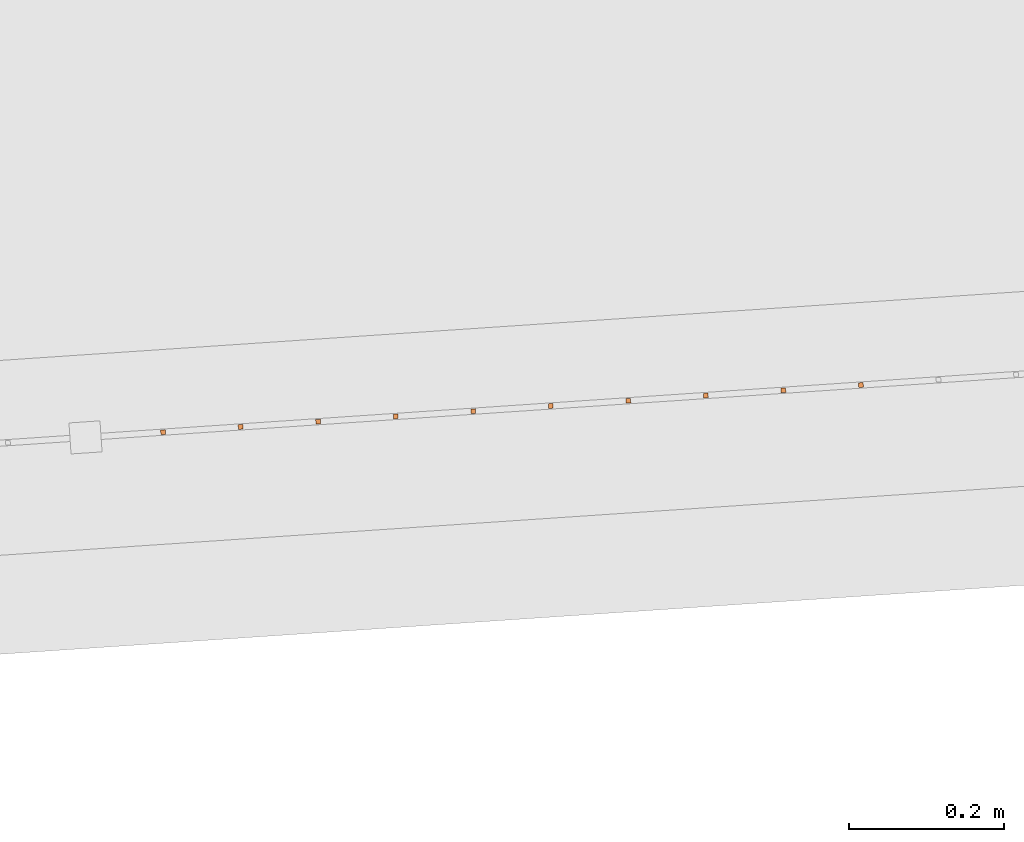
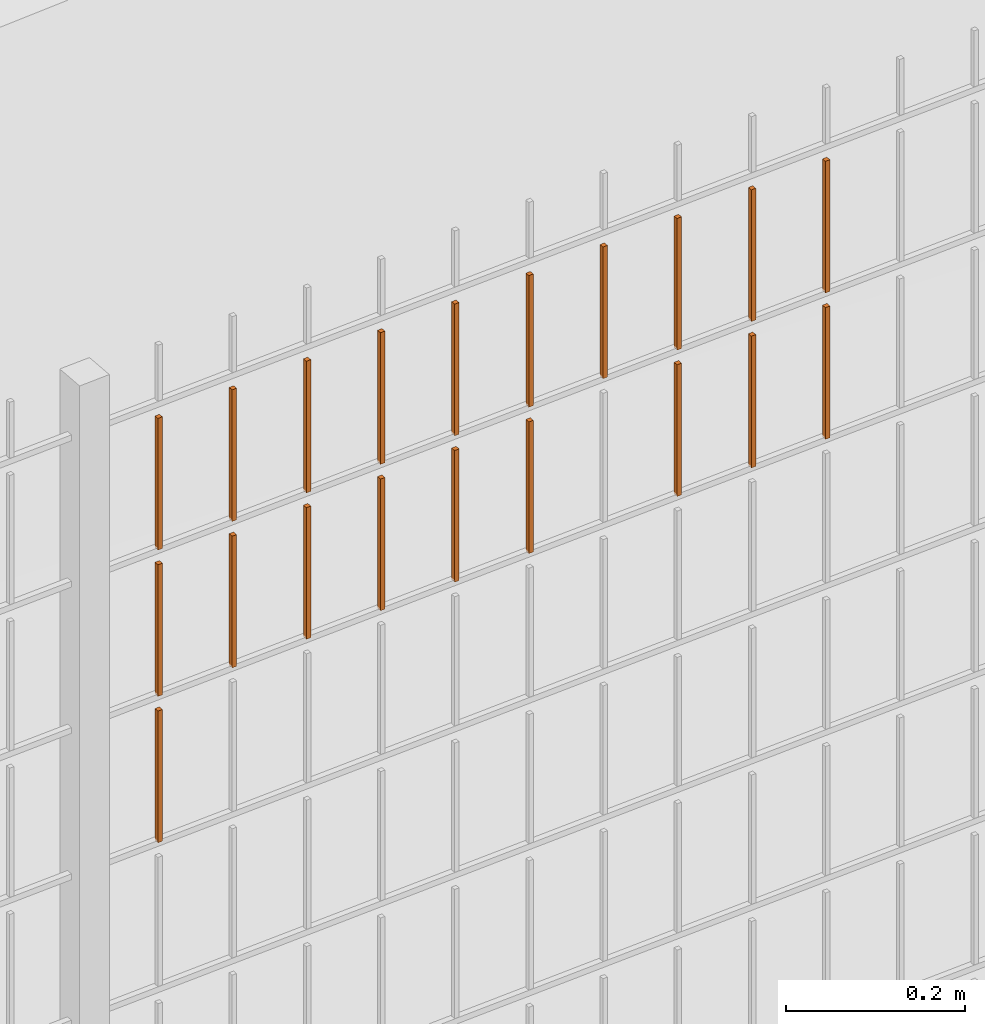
# One storey, part 324 of 1809: 20 proxies, 1 element without a shape of its own.
"""IFC2X3 building model written with IfcOpenShell, lengths in millimetres."""

from ifc_helpers import new_model, entity, si_unit, converted_unit, derived_unit, money_unit, direction, frame, origin_with_axes, place, context, subcontext, project, spatial, faceted_brep, source, transform, mapped, material, type_object, element, aggregate, save


model = new_model("IFC2X3")

# Units and contexts
model_context = context("Model", 3, precision=0.01, world=origin_with_axes(), true_north=direction((0.0, 1.0)))
body_context = subcontext(model_context, "Body", "Model", "MODEL_VIEW")
ifc_project = project(units=[si_unit("LENGTHUNIT", "METRE", prefix="MILLI"), si_unit("AREAUNIT", "SQUARE_METRE"), si_unit("VOLUMEUNIT", "CUBIC_METRE"), converted_unit("PLANEANGLEUNIT", "DEGREE", entity("IfcPlaneAngleMeasure", 0.0174532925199), si_unit("PLANEANGLEUNIT", "RADIAN"), dimensions=[0, 0, 0, 0, 0, 0, 0]), si_unit("SOLIDANGLEUNIT", "STERADIAN"), money_unit("EUR"), converted_unit("TIMEUNIT", "Year", entity("IfcTimeMeasure", 31556926.0), si_unit("TIMEUNIT", "SECOND"), dimensions=[0, 0, 1, 0, 0, 0, 0]), si_unit("MASSUNIT", "GRAM", prefix="KILO"), si_unit("THERMODYNAMICTEMPERATUREUNIT", "DEGREE_CELSIUS"), si_unit("LUMINOUSINTENSITYUNIT", "LUMEN"), si_unit("ENERGYUNIT", "JOULE", prefix="MEGA"), derived_unit("THERMALCONDUCTANCEUNIT", [(si_unit("POWERUNIT", "WATT"), 1), (si_unit("LENGTHUNIT", "METRE"), -1), (si_unit("THERMODYNAMICTEMPERATUREUNIT", "KELVIN"), -1)]), derived_unit("SPECIFICHEATCAPACITYUNIT", [(si_unit("ENERGYUNIT", "JOULE"), 1), (si_unit("MASSUNIT", "GRAM", prefix="KILO"), -1), (si_unit("THERMODYNAMICTEMPERATUREUNIT", "KELVIN"), -1)]), derived_unit("MASSDENSITYUNIT", [(si_unit("MASSUNIT", "GRAM", prefix="KILO"), 1), (si_unit("VOLUMEUNIT", "CUBIC_METRE"), -1)])], contexts=[model_context])

# Site, building, storey
site_placement = place(None, origin_with_axes())
site = spatial("IfcSite", under=ifc_project, at=site_placement, Name="Politse- ja Piirivalveameti ning Päästeameti ühishoone", CompositionType="ELEMENT")
building_placement = place(site_placement, origin_with_axes())
building = spatial("IfcBuilding", under=site, at=building_placement, Name="Politse- ja Piirivalveameti ning Päästeameti ühishoone", CompositionType="ELEMENT")
storey_placement = place(building_placement, origin_with_axes())
storey = spatial("IfcBuildingStorey", under=building, at=storey_placement, Name="Esimene korrus", CompositionType="ELEMENT", Elevation=0.0)

# Proxies
building_element_proxy_type_1 = type_object("IfcBuildingElementProxyType", Name="Railing Type", PredefinedType="NOTDEFINED")
proxy_1_placement = place(storey_placement, frame((89252.001212, -29183.4766571, 203.661247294), z_axis=(0.0, 0.0, 1.0), x_axis=(1.0, 0.0, 0.0)))
proxy_1 = element("IfcBuildingElementProxy", 1, at=proxy_1_placement, inside=storey, type_object=building_element_proxy_type_1, Name="PIIRDEAED")
ifc_material = material(Name="ET-03_Raud")
building_element_proxy_type_2 = type_object("IfcBuildingElementProxyType", Name="IfcBuildingElementProxy", PredefinedType="NOTDEFINED")
shared_shape_1 = source(origin_with_axes(), body_context, "Body", "Brep", [
    faceted_brep([(3.0, 3.0, -0.000752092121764), (-3.0, 3.0, -0.000752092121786), (-3.0, 3.0, 179.99926046), (3.0, 3.0, 179.99926046), (3.0, -3.0, 0.000752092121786), (-3.0, -3.0, 0.000752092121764), (-3.0, -3.0, 180.000764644), (3.0, -3.0, 180.000764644)], [[[0, 1, 2, 3]], [[0, 4, 5, 1]], [[1, 5, 6, 2]], [[3, 2, 6, 7]], [[4, 0, 3, 7]], [[5, 4, 7, 6]]]),
])
proxy_2_placement = place(proxy_1_placement, frame((-37142.0542199, -19806.5803551, 1417.9017526), z_axis=(0.0, 0.0, 1.0), x_axis=(1.0, 0.0, 0.0)))
proxy_2 = element("IfcBuildingElementProxy", 2, at=proxy_2_placement, type_object=building_element_proxy_type_2, material=ifc_material, Name="BALUSTER - 001", context=body_context, shape_type="MappedRepresentation", body=[
    mapped(shared_shape_1, transform((0.0, 0.0, 0.0), x_axis=(-0.0673926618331, 0.997726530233, 0.0), y_axis=(-0.997726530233, -0.0673926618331, 0.0), z_axis=(0.0, 0.0, 1.0))),
])
shared_shape_2 = source(origin_with_axes(), body_context, "Body", "Brep", [
    faceted_brep([(3.0, 3.0, -0.000752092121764), (-3.0, 3.0, -0.000752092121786), (-3.0, 3.0, 179.99926046), (3.0, 3.0, 179.99926046), (3.0, -3.0, 0.000752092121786), (-3.0, -3.0, 0.000752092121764), (-3.0, -3.0, 180.000764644), (3.0, -3.0, 180.000764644)], [[[0, 1, 2, 3]], [[0, 4, 5, 1]], [[1, 5, 6, 2]], [[3, 2, 6, 7]], [[4, 0, 3, 7]], [[5, 4, 7, 6]]]),
])
proxy_3_placement = place(proxy_1_placement, frame((-37142.0542199, -19806.5803551, 1817.9017526), z_axis=(0.0, 0.0, 1.0), x_axis=(1.0, 0.0, 0.0)))
proxy_3 = element("IfcBuildingElementProxy", 3, at=proxy_3_placement, type_object=building_element_proxy_type_2, material=ifc_material, Name="BALUSTER - 001", context=body_context, shape_type="MappedRepresentation", body=[
    mapped(shared_shape_2, transform((0.0, 0.0, 0.0), x_axis=(-0.0673926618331, 0.997726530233, 0.0), y_axis=(-0.997726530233, -0.0673926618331, 0.0), z_axis=(0.0, 0.0, 1.0))),
])
shared_shape_3 = source(origin_with_axes(), body_context, "Body", "Brep", [
    faceted_brep([(3.0, 3.0, -0.000752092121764), (-3.0, 3.0, -0.000752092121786), (-3.0, 3.0, 179.99926046), (3.0, 3.0, 179.99926046), (3.0, -3.0, 0.000752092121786), (-3.0, -3.0, 0.000752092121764), (-3.0, -3.0, 180.000764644), (3.0, -3.0, 180.000764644)], [[[0, 1, 2, 3]], [[0, 4, 5, 1]], [[1, 5, 6, 2]], [[3, 2, 6, 7]], [[4, 0, 3, 7]], [[5, 4, 7, 6]]]),
])
proxy_4_placement = place(proxy_1_placement, frame((-37142.0542199, -19806.5803551, 1617.9017526), z_axis=(0.0, 0.0, 1.0), x_axis=(1.0, 0.0, 0.0)))
proxy_4 = element("IfcBuildingElementProxy", 4, at=proxy_4_placement, type_object=building_element_proxy_type_2, material=ifc_material, Name="BALUSTER - 001", context=body_context, shape_type="MappedRepresentation", body=[
    mapped(shared_shape_3, transform((0.0, 0.0, 0.0), x_axis=(-0.0673926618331, 0.997726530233, 0.0), y_axis=(-0.997726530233, -0.0673926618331, 0.0), z_axis=(0.0, 0.0, 1.0))),
])
proxy_5_placement = place(proxy_1_placement, frame((-37042.2815668, -19799.8410889, 1817.92682233), z_axis=(0.0, 0.0, 1.0), x_axis=(1.0, 0.0, 0.0)))
proxy_5 = element("IfcBuildingElementProxy", 5, at=proxy_5_placement, type_object=building_element_proxy_type_2, material=ifc_material, Name="BALUSTER - 001", context=body_context, shape_type="MappedRepresentation", body=[
    mapped(shared_shape_3, transform((0.0, 0.0, 0.0), x_axis=(-0.0673926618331, 0.997726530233, 0.0), y_axis=(-0.997726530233, -0.0673926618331, 0.0), z_axis=(0.0, 0.0, 1.0))),
])
shared_shape_4 = source(origin_with_axes(), body_context, "Body", "Brep", [
    faceted_brep([(3.0, 3.0, -0.000752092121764), (-3.0, 3.0, -0.000752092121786), (-3.0, 3.0, 179.99926046), (3.0, 3.0, 179.99926046), (3.0, -3.0, 0.000752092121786), (-3.0, -3.0, 0.000752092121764), (-3.0, -3.0, 180.000764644), (3.0, -3.0, 180.000764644)], [[[0, 1, 2, 3]], [[0, 4, 5, 1]], [[1, 5, 6, 2]], [[3, 2, 6, 7]], [[4, 0, 3, 7]], [[5, 4, 7, 6]]]),
])
proxy_6_placement = place(proxy_1_placement, frame((-37042.2815668, -19799.8410889, 1617.92682233), z_axis=(0.0, 0.0, 1.0), x_axis=(1.0, 0.0, 0.0)))
proxy_6 = element("IfcBuildingElementProxy", 6, at=proxy_6_placement, type_object=building_element_proxy_type_2, material=ifc_material, Name="BALUSTER - 001", context=body_context, shape_type="MappedRepresentation", body=[
    mapped(shared_shape_4, transform((0.0, 0.0, 0.0), x_axis=(-0.0673926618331, 0.997726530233, 0.0), y_axis=(-0.997726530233, -0.0673926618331, 0.0), z_axis=(0.0, 0.0, 1.0))),
])
shared_shape_5 = source(origin_with_axes(), body_context, "Body", "Brep", [
    faceted_brep([(3.0, 3.0, -0.000752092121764), (-3.0, 3.0, -0.000752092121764), (-3.0, 3.0, 179.99926046), (3.0, 3.0, 179.99926046), (3.0, -3.0, 0.000752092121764), (-3.0, -3.0, 0.000752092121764), (-3.0, -3.0, 180.000764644), (3.0, -3.0, 180.000764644)], [[[0, 1, 2, 3]], [[0, 4, 5, 1]], [[1, 5, 6, 2]], [[3, 2, 6, 7]], [[4, 0, 3, 7]], [[5, 4, 7, 6]]]),
])
proxy_7_placement = place(proxy_1_placement, frame((-36842.7362608, -19786.3625566, 1817.97696181), z_axis=(0.0, 0.0, 1.0), x_axis=(1.0, 0.0, 0.0)))
proxy_7 = element("IfcBuildingElementProxy", 7, at=proxy_7_placement, type_object=building_element_proxy_type_2, material=ifc_material, Name="BALUSTER - 001", context=body_context, shape_type="MappedRepresentation", body=[
    mapped(shared_shape_5, transform((0.0, 0.0, 0.0), x_axis=(-0.0673926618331, 0.997726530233, 0.0), y_axis=(-0.997726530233, -0.0673926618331, 0.0), z_axis=(0.0, 0.0, 1.0))),
])
shared_shape_6 = source(origin_with_axes(), body_context, "Body", "Brep", [
    faceted_brep([(3.0, 3.0, -0.000752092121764), (-3.0, 3.0, -0.000752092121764), (-3.0, 3.0, 179.99926046), (3.0, 3.0, 179.99926046), (3.0, -3.0, 0.000752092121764), (-3.0, -3.0, 0.000752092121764), (-3.0, -3.0, 180.000764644), (3.0, -3.0, 180.000764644)], [[[0, 1, 2, 3]], [[0, 4, 5, 1]], [[1, 5, 6, 2]], [[3, 2, 6, 7]], [[4, 0, 3, 7]], [[5, 4, 7, 6]]]),
])
proxy_8_placement = place(proxy_1_placement, frame((-36742.9636078, -19779.6232904, 1618.00203155), z_axis=(0.0, 0.0, 1.0), x_axis=(1.0, 0.0, 0.0)))
proxy_8 = element("IfcBuildingElementProxy", 8, at=proxy_8_placement, type_object=building_element_proxy_type_2, material=ifc_material, Name="BALUSTER - 001", context=body_context, shape_type="MappedRepresentation", body=[
    mapped(shared_shape_6, transform((0.0, 0.0, 0.0), x_axis=(-0.0673926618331, 0.997726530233, 0.0), y_axis=(-0.997726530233, -0.0673926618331, 0.0), z_axis=(0.0, 0.0, 1.0))),
])
shared_shape_7 = source(origin_with_axes(), body_context, "Body", "Brep", [
    faceted_brep([(3.0, 3.0, -0.000752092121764), (-3.0, 3.0, -0.000752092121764), (-3.0, 3.0, 179.99926046), (3.0, 3.0, 179.99926046), (3.0, -3.0, 0.000752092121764), (-3.0, -3.0, 0.000752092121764), (-3.0, -3.0, 180.000764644), (3.0, -3.0, 180.000764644)], [[[0, 1, 2, 3]], [[0, 4, 5, 1]], [[1, 5, 6, 2]], [[3, 2, 6, 7]], [[4, 0, 3, 7]], [[5, 4, 7, 6]]]),
])
proxy_9_placement = place(proxy_1_placement, frame((-36842.7362608, -19786.3625566, 1617.97696181), z_axis=(0.0, 0.0, 1.0), x_axis=(1.0, 0.0, 0.0)))
proxy_9 = element("IfcBuildingElementProxy", 9, at=proxy_9_placement, type_object=building_element_proxy_type_2, material=ifc_material, Name="BALUSTER - 001", context=body_context, shape_type="MappedRepresentation", body=[
    mapped(shared_shape_7, transform((0.0, 0.0, 0.0), x_axis=(-0.0673926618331, 0.997726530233, 0.0), y_axis=(-0.997726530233, -0.0673926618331, 0.0), z_axis=(0.0, 0.0, 1.0))),
])
proxy_10_placement = place(proxy_1_placement, frame((-36742.9636078, -19779.6232904, 1818.00203155), z_axis=(0.0, 0.0, 1.0), x_axis=(1.0, 0.0, 0.0)))
proxy_10 = element("IfcBuildingElementProxy", 10, at=proxy_10_placement, type_object=building_element_proxy_type_2, material=ifc_material, Name="BALUSTER - 001", context=body_context, shape_type="MappedRepresentation", body=[
    mapped(shared_shape_7, transform((0.0, 0.0, 0.0), x_axis=(-0.0673926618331, 0.997726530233, 0.0), y_axis=(-0.997726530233, -0.0673926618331, 0.0), z_axis=(0.0, 0.0, 1.0))),
])
shared_shape_8 = source(origin_with_axes(), body_context, "Body", "Brep", [
    faceted_brep([(3.0, 3.0, -0.000752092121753), (-3.0, 3.0, -0.000752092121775), (-3.0, 3.0, 179.99926046), (3.0, 3.0, 179.99926046), (3.0, -3.0, 0.000752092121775), (-3.0, -3.0, 0.000752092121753), (-3.0, -3.0, 180.000764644), (3.0, -3.0, 180.000764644)], [[[0, 1, 2, 3]], [[0, 4, 5, 1]], [[1, 5, 6, 2]], [[3, 2, 6, 7]], [[4, 0, 3, 7]], [[5, 4, 7, 6]]]),
])
proxy_11_placement = place(proxy_1_placement, frame((-36643.1909547, -19772.8840242, 1818.02710128), z_axis=(0.0, 0.0, 1.0), x_axis=(1.0, 0.0, 0.0)))
proxy_11 = element("IfcBuildingElementProxy", 11, at=proxy_11_placement, type_object=building_element_proxy_type_2, material=ifc_material, Name="BALUSTER - 001", context=body_context, shape_type="MappedRepresentation", body=[
    mapped(shared_shape_8, transform((0.0, 0.0, 0.0), x_axis=(-0.0673926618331, 0.997726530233, 0.0), y_axis=(-0.997726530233, -0.0673926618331, 0.0), z_axis=(0.0, 0.0, 1.0))),
])
shared_shape_9 = source(origin_with_axes(), body_context, "Body", "Brep", [
    faceted_brep([(3.0, 3.0, -0.000752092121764), (-3.0, 3.0, -0.000752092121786), (-3.0, 3.0, 179.99926046), (3.0, 3.0, 179.99926046), (3.0, -3.0, 0.000752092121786), (-3.0, -3.0, 0.000752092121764), (-3.0, -3.0, 180.000764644), (3.0, -3.0, 180.000764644)], [[[0, 1, 2, 3]], [[0, 4, 5, 1]], [[1, 5, 6, 2]], [[3, 2, 6, 7]], [[4, 0, 3, 7]], [[5, 4, 7, 6]]]),
])
proxy_12_placement = place(proxy_1_placement, frame((-36443.6456487, -19759.4054918, 1818.07724076), z_axis=(0.0, 0.0, 1.0), x_axis=(1.0, 0.0, 0.0)))
proxy_12 = element("IfcBuildingElementProxy", 12, at=proxy_12_placement, type_object=building_element_proxy_type_2, material=ifc_material, Name="BALUSTER - 001", context=body_context, shape_type="MappedRepresentation", body=[
    mapped(shared_shape_9, transform((0.0, 0.0, 0.0), x_axis=(-0.0673926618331, 0.997726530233, 0.0), y_axis=(-0.997726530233, -0.0673926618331, 0.0), z_axis=(0.0, 0.0, 1.0))),
])
shared_shape_10 = source(origin_with_axes(), body_context, "Body", "Brep", [
    faceted_brep([(3.0, 3.0, -0.000752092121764), (-3.0, 3.0, -0.000752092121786), (-3.0, 3.0, 179.99926046), (3.0, 3.0, 179.99926046), (3.0, -3.0, 0.000752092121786), (-3.0, -3.0, 0.000752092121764), (-3.0, -3.0, 180.000764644), (3.0, -3.0, 180.000764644)], [[[0, 1, 2, 3]], [[0, 4, 5, 1]], [[1, 5, 6, 2]], [[3, 2, 6, 7]], [[4, 0, 3, 7]], [[5, 4, 7, 6]]]),
])
proxy_13_placement = place(proxy_1_placement, frame((-36443.6456487, -19759.4054918, 1618.07724076), z_axis=(0.0, 0.0, 1.0), x_axis=(1.0, 0.0, 0.0)))
proxy_13 = element("IfcBuildingElementProxy", 13, at=proxy_13_placement, type_object=building_element_proxy_type_2, material=ifc_material, Name="BALUSTER - 001", context=body_context, shape_type="MappedRepresentation", body=[
    mapped(shared_shape_10, transform((0.0, 0.0, 0.0), x_axis=(-0.0673926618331, 0.997726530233, 0.0), y_axis=(-0.997726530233, -0.0673926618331, 0.0), z_axis=(0.0, 0.0, 1.0))),
])
shared_shape_11 = source(origin_with_axes(), body_context, "Body", "Brep", [
    faceted_brep([(3.0, 3.0, -0.000752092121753), (-3.0, 3.0, -0.000752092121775), (-3.0, 3.0, 179.99926046), (3.0, 3.0, 179.99926046), (3.0, -3.0, 0.000752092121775), (-3.0, -3.0, 0.000752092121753), (-3.0, -3.0, 180.000764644), (3.0, -3.0, 180.000764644)], [[[0, 1, 2, 3]], [[0, 4, 5, 1]], [[1, 5, 6, 2]], [[3, 2, 6, 7]], [[4, 0, 3, 7]], [[5, 4, 7, 6]]]),
])
proxy_14_placement = place(proxy_1_placement, frame((-36643.1909547, -19772.8840242, 1618.02710128), z_axis=(0.0, 0.0, 1.0), x_axis=(1.0, 0.0, 0.0)))
proxy_14 = element("IfcBuildingElementProxy", 14, at=proxy_14_placement, type_object=building_element_proxy_type_2, material=ifc_material, Name="BALUSTER - 001", context=body_context, shape_type="MappedRepresentation", body=[
    mapped(shared_shape_11, transform((0.0, 0.0, 0.0), x_axis=(-0.0673926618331, 0.997726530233, 0.0), y_axis=(-0.997726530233, -0.0673926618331, 0.0), z_axis=(0.0, 0.0, 1.0))),
])
shared_shape_12 = source(origin_with_axes(), body_context, "Body", "Brep", [
    faceted_brep([(3.0, 3.0, -0.000752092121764), (-3.0, 3.0, -0.000752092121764), (-3.0, 3.0, 179.99926046), (3.0, 3.0, 179.99926046), (3.0, -3.0, 0.000752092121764), (-3.0, -3.0, 0.000752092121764), (-3.0, -3.0, 180.000764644), (3.0, -3.0, 180.000764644)], [[[0, 1, 2, 3]], [[0, 4, 5, 1]], [[1, 5, 6, 2]], [[3, 2, 6, 7]], [[4, 0, 3, 7]], [[5, 4, 7, 6]]]),
])
proxy_15_placement = place(proxy_1_placement, frame((-36942.5089138, -19793.1018227, 1617.95189207), z_axis=(0.0, 0.0, 1.0), x_axis=(1.0, 0.0, 0.0)))
proxy_15 = element("IfcBuildingElementProxy", 15, at=proxy_15_placement, type_object=building_element_proxy_type_2, material=ifc_material, Name="BALUSTER - 001", context=body_context, shape_type="MappedRepresentation", body=[
    mapped(shared_shape_12, transform((0.0, 0.0, 0.0), x_axis=(-0.0673926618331, 0.997726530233, 0.0), y_axis=(-0.997726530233, -0.0673926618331, 0.0), z_axis=(0.0, 0.0, 1.0))),
])
shared_shape_13 = source(origin_with_axes(), body_context, "Body", "Brep", [
    faceted_brep([(3.0, 3.0, -0.000752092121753), (-3.0, 3.0, -0.000752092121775), (-3.0, 3.0, 179.99926046), (3.0, 3.0, 179.99926046), (3.0, -3.0, 0.000752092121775), (-3.0, -3.0, 0.000752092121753), (-3.0, -3.0, 180.000764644), (3.0, -3.0, 180.000764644)], [[[0, 1, 2, 3]], [[0, 4, 5, 1]], [[1, 5, 6, 2]], [[3, 2, 6, 7]], [[4, 0, 3, 7]], [[5, 4, 7, 6]]]),
])
proxy_16_placement = place(proxy_1_placement, frame((-36244.1003426, -19745.9269595, 1818.12738023), z_axis=(0.0, 0.0, 1.0), x_axis=(1.0, 0.0, 0.0)))
proxy_16 = element("IfcBuildingElementProxy", 16, at=proxy_16_placement, type_object=building_element_proxy_type_2, material=ifc_material, Name="BALUSTER - 001", context=body_context, shape_type="MappedRepresentation", body=[
    mapped(shared_shape_13, transform((0.0, 0.0, 0.0), x_axis=(-0.0673926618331, 0.997726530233, 0.0), y_axis=(-0.997726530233, -0.0673926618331, 0.0), z_axis=(0.0, 0.0, 1.0))),
])
shared_shape_14 = source(origin_with_axes(), body_context, "Body", "Brep", [
    faceted_brep([(3.0, 3.0, -0.000752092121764), (-3.0, 3.0, -0.000752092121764), (-3.0, 3.0, 179.99926046), (3.0, 3.0, 179.99926046), (3.0, -3.0, 0.000752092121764), (-3.0, -3.0, 0.000752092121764), (-3.0, -3.0, 180.000764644), (3.0, -3.0, 180.000764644)], [[[0, 1, 2, 3]], [[0, 4, 5, 1]], [[1, 5, 6, 2]], [[3, 2, 6, 7]], [[4, 0, 3, 7]], [[5, 4, 7, 6]]]),
])
proxy_17_placement = place(proxy_1_placement, frame((-36942.5089138, -19793.1018227, 1817.95189207), z_axis=(0.0, 0.0, 1.0), x_axis=(1.0, 0.0, 0.0)))
proxy_17 = element("IfcBuildingElementProxy", 17, at=proxy_17_placement, type_object=building_element_proxy_type_2, material=ifc_material, Name="BALUSTER - 001", context=body_context, shape_type="MappedRepresentation", body=[
    mapped(shared_shape_14, transform((0.0, 0.0, 0.0), x_axis=(-0.0673926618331, 0.997726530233, 0.0), y_axis=(-0.997726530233, -0.0673926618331, 0.0), z_axis=(0.0, 0.0, 1.0))),
])
shared_shape_15 = source(origin_with_axes(), body_context, "Body", "Brep", [
    faceted_brep([(3.0, 3.0, -0.000752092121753), (-3.0, 3.0, -0.000752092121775), (-3.0, 3.0, 179.99926046), (3.0, 3.0, 179.99926046), (3.0, -3.0, 0.000752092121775), (-3.0, -3.0, 0.000752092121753), (-3.0, -3.0, 180.000764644), (3.0, -3.0, 180.000764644)], [[[0, 1, 2, 3]], [[0, 4, 5, 1]], [[1, 5, 6, 2]], [[3, 2, 6, 7]], [[4, 0, 3, 7]], [[5, 4, 7, 6]]]),
])
proxy_18_placement = place(proxy_1_placement, frame((-36343.8729957, -19752.6662256, 1818.1023105), z_axis=(0.0, 0.0, 1.0), x_axis=(1.0, 0.0, 0.0)))
proxy_18 = element("IfcBuildingElementProxy", 18, at=proxy_18_placement, type_object=building_element_proxy_type_2, material=ifc_material, Name="BALUSTER - 001", context=body_context, shape_type="MappedRepresentation", body=[
    mapped(shared_shape_15, transform((0.0, 0.0, 0.0), x_axis=(-0.0673926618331, 0.997726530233, 0.0), y_axis=(-0.997726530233, -0.0673926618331, 0.0), z_axis=(0.0, 0.0, 1.0))),
])
shared_shape_16 = source(origin_with_axes(), body_context, "Body", "Brep", [
    faceted_brep([(3.0, 3.0, -0.000752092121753), (-3.0, 3.0, -0.000752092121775), (-3.0, 3.0, 179.99926046), (3.0, 3.0, 179.99926046), (3.0, -3.0, 0.000752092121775), (-3.0, -3.0, 0.000752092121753), (-3.0, -3.0, 180.000764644), (3.0, -3.0, 180.000764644)], [[[0, 1, 2, 3]], [[0, 4, 5, 1]], [[1, 5, 6, 2]], [[3, 2, 6, 7]], [[4, 0, 3, 7]], [[5, 4, 7, 6]]]),
])
proxy_19_placement = place(proxy_1_placement, frame((-36343.8729957, -19752.6662256, 1618.1023105), z_axis=(0.0, 0.0, 1.0), x_axis=(1.0, 0.0, 0.0)))
proxy_19 = element("IfcBuildingElementProxy", 19, at=proxy_19_placement, type_object=building_element_proxy_type_2, material=ifc_material, Name="BALUSTER - 001", context=body_context, shape_type="MappedRepresentation", body=[
    mapped(shared_shape_16, transform((0.0, 0.0, 0.0), x_axis=(-0.0673926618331, 0.997726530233, 0.0), y_axis=(-0.997726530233, -0.0673926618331, 0.0), z_axis=(0.0, 0.0, 1.0))),
])
shared_shape_17 = source(origin_with_axes(), body_context, "Body", "Brep", [
    faceted_brep([(3.0, 3.0, -0.000752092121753), (-3.0, 3.0, -0.000752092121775), (-3.0, 3.0, 179.99926046), (3.0, 3.0, 179.99926046), (3.0, -3.0, 0.000752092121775), (-3.0, -3.0, 0.000752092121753), (-3.0, -3.0, 180.000764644), (3.0, -3.0, 180.000764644)], [[[0, 1, 2, 3]], [[0, 4, 5, 1]], [[1, 5, 6, 2]], [[3, 2, 6, 7]], [[4, 0, 3, 7]], [[5, 4, 7, 6]]]),
])
proxy_20_placement = place(proxy_1_placement, frame((-36244.1003426, -19745.9269595, 1618.12738023), z_axis=(0.0, 0.0, 1.0), x_axis=(1.0, 0.0, 0.0)))
proxy_20 = element("IfcBuildingElementProxy", 20, at=proxy_20_placement, type_object=building_element_proxy_type_2, material=ifc_material, Name="BALUSTER - 001", context=body_context, shape_type="MappedRepresentation", body=[
    mapped(shared_shape_17, transform((0.0, 0.0, 0.0), x_axis=(-0.0673926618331, 0.997726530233, 0.0), y_axis=(-0.997726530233, -0.0673926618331, 0.0), z_axis=(0.0, 0.0, 1.0))),
])
shared_shape_18 = source(origin_with_axes(), body_context, "Body", "Brep", [
    faceted_brep([(3.0, 3.0, -0.000752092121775), (-3.0, 3.0, -0.000752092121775), (-3.0, 3.0, 179.99926046), (3.0, 3.0, 179.99926046), (3.0, -3.0, 0.000752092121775), (-3.0, -3.0, 0.000752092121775), (-3.0, -3.0, 180.000764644), (3.0, -3.0, 180.000764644)], [[[0, 1, 2, 3]], [[0, 4, 5, 1]], [[1, 5, 6, 2]], [[3, 2, 6, 7]], [[4, 0, 3, 7]], [[5, 4, 7, 6]]]),
])
proxy_21_placement = place(proxy_1_placement, frame((-36543.4183017, -19766.144758, 1818.05217102), z_axis=(0.0, 0.0, 1.0), x_axis=(1.0, 0.0, 0.0)))
proxy_21 = element("IfcBuildingElementProxy", 21, at=proxy_21_placement, type_object=building_element_proxy_type_2, material=ifc_material, Name="BALUSTER - 001", context=body_context, shape_type="MappedRepresentation", body=[
    mapped(shared_shape_18, transform((0.0, 0.0, 0.0), x_axis=(-0.0673926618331, 0.997726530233, 0.0), y_axis=(-0.997726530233, -0.0673926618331, 0.0), z_axis=(0.0, 0.0, 1.0))),
])
aggregate(proxy_1, [proxy_2, proxy_20, proxy_19, proxy_13, proxy_14, proxy_8, proxy_9, proxy_15, proxy_6, proxy_4, proxy_16, proxy_18, proxy_12, proxy_21, proxy_11, proxy_10, proxy_7, proxy_17, proxy_5, proxy_3])

save(model, "model.ifc")
